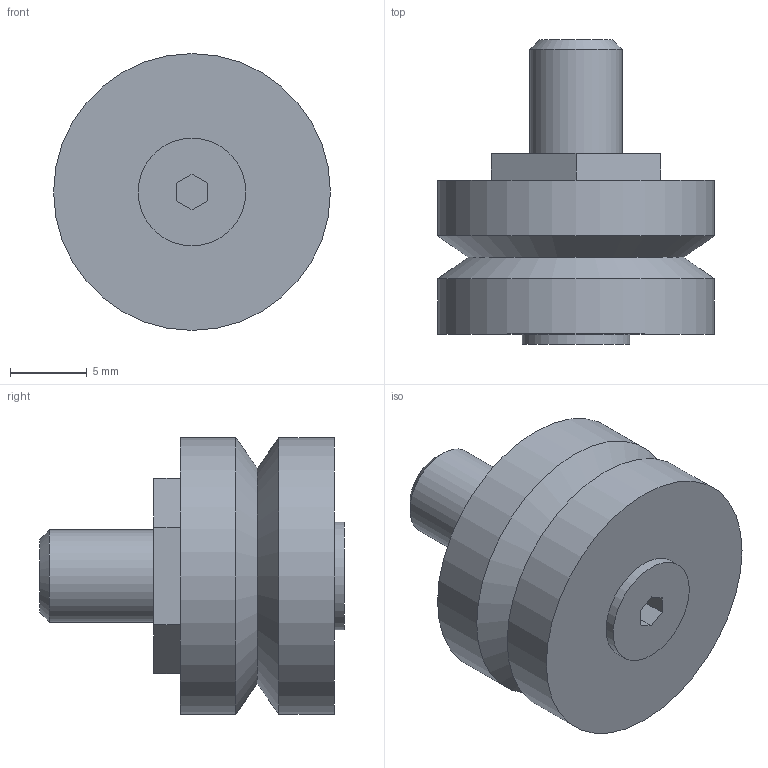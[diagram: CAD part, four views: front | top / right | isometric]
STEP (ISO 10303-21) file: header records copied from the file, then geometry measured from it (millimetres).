
FILE_DESCRIPTION( ( 'STEP AP203' ), '1' );
FILE_NAME( 'p:/temp/worker_122/temp/exporttempdir_3296_18_LSMcx/format_0/RBHJ18CNS.stp', '2022-06-02T04:31:20', ( 'License CC BY-ND 4.0' ), ( 'CADENAS' ), ' ', 'PARTsolutions', ' ' );
FILE_SCHEMA( ( 'CONFIG_CONTROL_DESIGN' ) );
Length unit declared in the file: millimetre
Products named in the file (1): _RBHJ18CNS
Bounding box: 18 x 19.8 x 18 mm (x, y, z)
Volume: 2798.5 mm3; surface area: 1402.4 mm2
Topology: 1 solids, 1 shells, 25 faces, 54 edges, 35 vertices
Faces by surface type: plane 18, cylinder 4, cone 3
Full cylindrical faces by diameter (mm): 6 x1, 7 x1, 18 x2
Entity records: 674 total; most frequent: DIRECTION 108, CARTESIAN_POINT 106, ORIENTED_EDGE 92, EDGE_CURVE 46, AXIS2_PLACEMENT_3D 36, EDGE_LOOP 36, LINE 36, VECTOR 36
